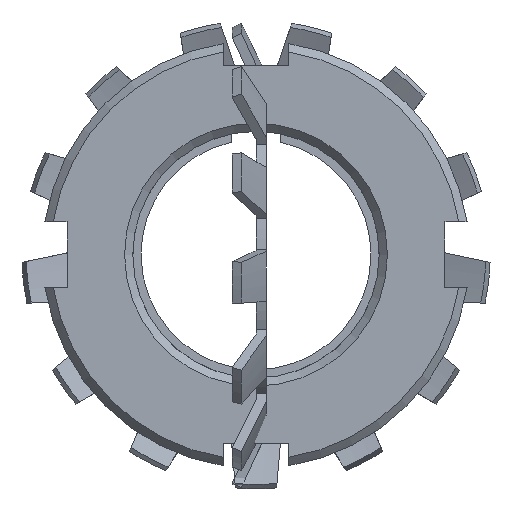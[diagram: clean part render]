
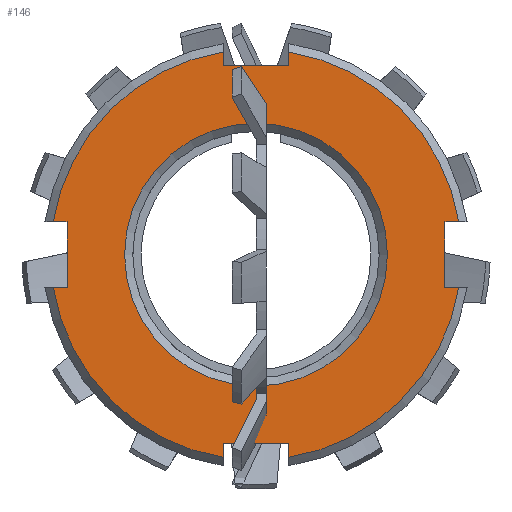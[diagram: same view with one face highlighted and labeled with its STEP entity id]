
A CAD part, front view. The second image highlights one B-rep face of the part: STEP entity #146.
In plain terms, the highlighted planar face has unit normal (0, -1, 0).
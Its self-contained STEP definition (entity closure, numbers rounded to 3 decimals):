
#146 = ADVANCED_FACE( '', ( #281, #282 ), #283, .F. );
#281 = FACE_BOUND( '', #411, .T. );
#282 = FACE_OUTER_BOUND( '', #412, .T. );
#283 = PLANE( '', #413 );
#411 = EDGE_LOOP( '', ( #807 ) );
#412 = EDGE_LOOP( '', ( #808, #809, #810, #811, #812, #813, #814, #815, #816, #817, #818, #819, #820, #821, #822, #823 ) );
#413 = AXIS2_PLACEMENT_3D( '', #824, #825, #826 );
#807 = ORIENTED_EDGE( '', *, *, #1111, .F. );
#808 = ORIENTED_EDGE( '', *, *, #1083, .F. );
#809 = ORIENTED_EDGE( '', *, *, #1101, .T. );
#810 = ORIENTED_EDGE( '', *, *, #1097, .T. );
#811 = ORIENTED_EDGE( '', *, *, #1015, .T. );
#812 = ORIENTED_EDGE( '', *, *, #1086, .F. );
#813 = ORIENTED_EDGE( '', *, *, #1018, .T. );
#814 = ORIENTED_EDGE( '', *, *, #1094, .T. );
#815 = ORIENTED_EDGE( '', *, *, #1104, .T. );
#816 = ORIENTED_EDGE( '', *, *, #1025, .F. );
#817 = ORIENTED_EDGE( '', *, *, #1061, .T. );
#818 = ORIENTED_EDGE( '', *, *, #1130, .T. );
#819 = ORIENTED_EDGE( '', *, *, #1078, .T. );
#820 = ORIENTED_EDGE( '', *, *, #1132, .F. );
#821 = ORIENTED_EDGE( '', *, *, #1008, .T. );
#822 = ORIENTED_EDGE( '', *, *, #1030, .T. );
#823 = ORIENTED_EDGE( '', *, *, #1035, .T. );
#824 = CARTESIAN_POINT( '', ( 0., -10.25, 26. ) );
#825 = DIRECTION( '', ( 0., 1., 0. ) );
#826 = DIRECTION( '', ( 0., 0., 1. ) );
#1008 = EDGE_CURVE( '', #1308, #1306, #1309, .T. );
#1015 = EDGE_CURVE( '', #1315, #1319, #1321, .F. );
#1018 = EDGE_CURVE( '', #1326, #1324, #1327, .T. );
#1025 = EDGE_CURVE( '', #1337, #1339, #1340, .T. );
#1030 = EDGE_CURVE( '', #1306, #1346, #1348, .T. );
#1035 = EDGE_CURVE( '', #1346, #1353, #1355, .F. );
#1061 = EDGE_CURVE( '', #1337, #1397, #1399, .T. );
#1078 = EDGE_CURVE( '', #1422, #1424, #1426, .F. );
#1083 = EDGE_CURVE( '', #1432, #1353, #1434, .T. );
#1086 = EDGE_CURVE( '', #1326, #1319, #1437, .T. );
#1094 = EDGE_CURVE( '', #1324, #1445, #1447, .T. );
#1097 = EDGE_CURVE( '', #1450, #1315, #1451, .T. );
#1101 = EDGE_CURVE( '', #1432, #1450, #1456, .T. );
#1104 = EDGE_CURVE( '', #1445, #1339, #1459, .F. );
#1111 = EDGE_CURVE( '', #1468, #1468, #1469, .T. );
#1130 = EDGE_CURVE( '', #1397, #1422, #1490, .T. );
#1132 = EDGE_CURVE( '', #1308, #1424, #1492, .T. );
#1306 = VERTEX_POINT( '', #2240 );
#1308 = VERTEX_POINT( '', #2243 );
#1309 = LINE( '', #2244, #2245 );
#1315 = VERTEX_POINT( '', #2259 );
#1319 = VERTEX_POINT( '', #2269 );
#1321 = CIRCLE( '', #2277, 25. );
#1324 = VERTEX_POINT( '', #2280 );
#1326 = VERTEX_POINT( '', #2283 );
#1327 = LINE( '', #2284, #2285 );
#1337 = VERTEX_POINT( '', #2307 );
#1339 = VERTEX_POINT( '', #2310 );
#1340 = LINE( '', #2311, #2312 );
#1346 = VERTEX_POINT( '', #2325 );
#1348 = LINE( '', #2333, #2334 );
#1353 = VERTEX_POINT( '', #2342 );
#1355 = CIRCLE( '', #2350, 25. );
#1397 = VERTEX_POINT( '', #2413 );
#1399 = LINE( '', #2416, #2417 );
#1422 = VERTEX_POINT( '', #2451 );
#1424 = VERTEX_POINT( '', #2459 );
#1426 = CIRCLE( '', #2467, 25. );
#1432 = VERTEX_POINT( '', #2477 );
#1434 = LINE( '', #2480, #2481 );
#1437 = LINE( '', #2487, #2488 );
#1445 = VERTEX_POINT( '', #2496 );
#1447 = LINE( '', #2504, #2505 );
#1450 = VERTEX_POINT( '', #2511 );
#1451 = LINE( '', #2512, #2513 );
#1456 = LINE( '', #2522, #2523 );
#1459 = CIRCLE( '', #2533, 25. );
#1468 = VERTEX_POINT( '', #2545 );
#1469 = CIRCLE( '', #2546, 16. );
#1490 = LINE( '', #2580, #2581 );
#1492 = LINE( '', #2583, #2584 );
#2240 = CARTESIAN_POINT( '', ( -4., -10.25, 23. ) );
#2243 = CARTESIAN_POINT( '', ( 4., -10.25, 23. ) );
#2244 = CARTESIAN_POINT( '', ( 4., -10.25, 23. ) );
#2245 = VECTOR( '', #2833, 1000. );
#2259 = CARTESIAN_POINT( '', ( -24.678, -10.25, -4. ) );
#2269 = CARTESIAN_POINT( '', ( -4., -10.25, -24.678 ) );
#2277 = AXIS2_PLACEMENT_3D( '', #2838, #2839, #2840 );
#2280 = CARTESIAN_POINT( '', ( 4., -10.25, -23. ) );
#2283 = CARTESIAN_POINT( '', ( -4., -10.25, -23. ) );
#2284 = CARTESIAN_POINT( '', ( -4., -10.25, -23. ) );
#2285 = VECTOR( '', #2842, 1000. );
#2307 = CARTESIAN_POINT( '', ( 23., -10.25, -4. ) );
#2310 = CARTESIAN_POINT( '', ( 24.678, -10.25, -4. ) );
#2311 = CARTESIAN_POINT( '', ( 26., -10.25, -4. ) );
#2312 = VECTOR( '', #2846, 1000. );
#2325 = CARTESIAN_POINT( '', ( -4., -10.25, 24.678 ) );
#2333 = CARTESIAN_POINT( '', ( -4., -10.25, 26. ) );
#2334 = VECTOR( '', #2848, 1000. );
#2342 = CARTESIAN_POINT( '', ( -24.678, -10.25, 4. ) );
#2350 = AXIS2_PLACEMENT_3D( '', #2852, #2853, #2854 );
#2413 = CARTESIAN_POINT( '', ( 23., -10.25, 4. ) );
#2416 = CARTESIAN_POINT( '', ( 23., -10.25, -4. ) );
#2417 = VECTOR( '', #2886, 1000. );
#2451 = CARTESIAN_POINT( '', ( 24.678, -10.25, 4. ) );
#2459 = CARTESIAN_POINT( '', ( 4., -10.25, 24.678 ) );
#2467 = AXIS2_PLACEMENT_3D( '', #2906, #2907, #2908 );
#2477 = CARTESIAN_POINT( '', ( -23., -10.25, 4. ) );
#2480 = CARTESIAN_POINT( '', ( -26., -10.25, 4. ) );
#2481 = VECTOR( '', #2911, 1000. );
#2487 = CARTESIAN_POINT( '', ( -4., -10.25, -26. ) );
#2488 = VECTOR( '', #2912, 1000. );
#2496 = CARTESIAN_POINT( '', ( 4., -10.25, -24.678 ) );
#2504 = CARTESIAN_POINT( '', ( 4., -10.25, -26. ) );
#2505 = VECTOR( '', #2922, 1000. );
#2511 = CARTESIAN_POINT( '', ( -23., -10.25, -4. ) );
#2512 = CARTESIAN_POINT( '', ( -26., -10.25, -4. ) );
#2513 = VECTOR( '', #2923, 1000. );
#2522 = CARTESIAN_POINT( '', ( -23., -10.25, 4. ) );
#2523 = VECTOR( '', #2925, 1000. );
#2533 = AXIS2_PLACEMENT_3D( '', #2926, #2927, #2928 );
#2545 = CARTESIAN_POINT( '', ( 0., -10.25, -16. ) );
#2546 = AXIS2_PLACEMENT_3D( '', #2935, #2936, #2937 );
#2580 = CARTESIAN_POINT( '', ( 26., -10.25, 4. ) );
#2581 = VECTOR( '', #2948, 1000. );
#2583 = CARTESIAN_POINT( '', ( 4., -10.25, 26. ) );
#2584 = VECTOR( '', #2949, 1000. );
#2833 = DIRECTION( '', ( -1., 0., 0. ) );
#2838 = CARTESIAN_POINT( '', ( 0., -10.25, 0. ) );
#2839 = DIRECTION( '', ( 0., 1., 0. ) );
#2840 = DIRECTION( '', ( 0., 0., 1. ) );
#2842 = DIRECTION( '', ( 1., 0., 0. ) );
#2846 = DIRECTION( '', ( 1., 0., 0. ) );
#2848 = DIRECTION( '', ( 0., 0., 1. ) );
#2852 = CARTESIAN_POINT( '', ( 0., -10.25, 0. ) );
#2853 = DIRECTION( '', ( 0., 1., 0. ) );
#2854 = DIRECTION( '', ( 0., 0., 1. ) );
#2886 = DIRECTION( '', ( 0., 0., 1. ) );
#2906 = CARTESIAN_POINT( '', ( 0., -10.25, 0. ) );
#2907 = DIRECTION( '', ( 0., 1., 0. ) );
#2908 = DIRECTION( '', ( 0., 0., 1. ) );
#2911 = DIRECTION( '', ( -1., 0., 0. ) );
#2912 = DIRECTION( '', ( 0., 0., -1. ) );
#2922 = DIRECTION( '', ( 0., 0., -1. ) );
#2923 = DIRECTION( '', ( -1., 0., 0. ) );
#2925 = DIRECTION( '', ( 0., 0., -1. ) );
#2926 = CARTESIAN_POINT( '', ( 0., -10.25, 0. ) );
#2927 = DIRECTION( '', ( 0., 1., 0. ) );
#2928 = DIRECTION( '', ( 0., 0., 1. ) );
#2935 = CARTESIAN_POINT( '', ( 0., -10.25, 0. ) );
#2936 = DIRECTION( '', ( 0., -1., 0. ) );
#2937 = DIRECTION( '', ( 0., 0., -1. ) );
#2948 = DIRECTION( '', ( 1., 0., 0. ) );
#2949 = DIRECTION( '', ( 0., 0., 1. ) );
